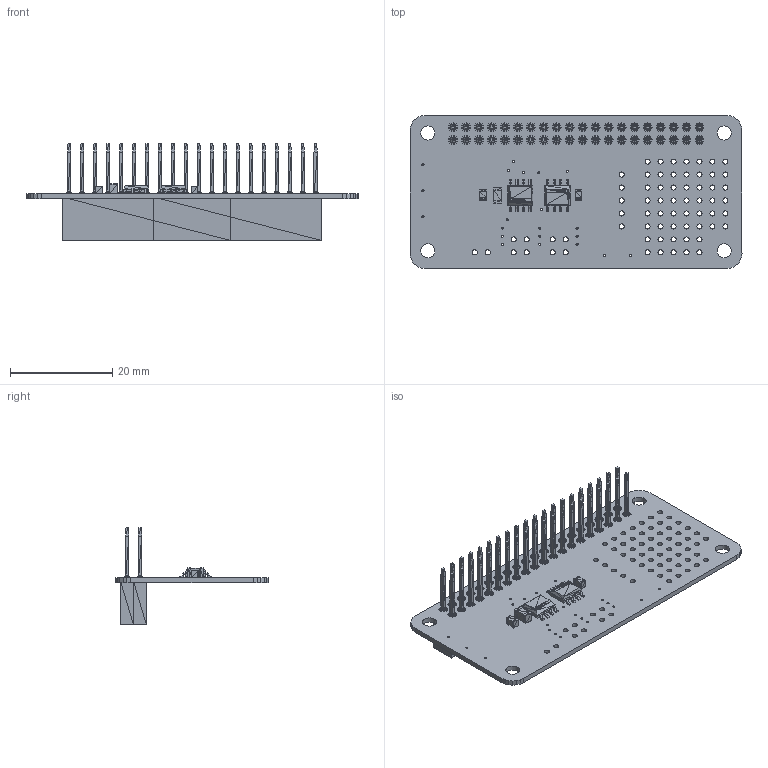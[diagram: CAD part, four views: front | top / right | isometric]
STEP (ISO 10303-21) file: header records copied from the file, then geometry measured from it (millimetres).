
FILE_DESCRIPTION(/* description */ (''),/* implementation_level */ '2;1');
FILE_NAME(/* name */ 'C:/Users/andrew/Desktop/3D Models/adc-dac-pi-zero-1.0.step',/* time_stamp */ '2018-02-10T15:25:00+00:00',/* author */ ('and101'),/* organization */ (''),/* preprocessor_version */ 'ST-DEVELOPER v16.13',/* originating_system */ 'Autodesk Translation Framework v6.5.0.72',/* authorisation */ '');
FILE_SCHEMA (('AUTOMOTIVE_DESIGN { 1 0 10303 214 3 1 1 }'));
Products named in the file (6): adc-dac-pi-zero-1.0; Board_adc-dac-pi-zero; cap_0805; cap_1206; 40_way_header; soic-8_150mil
Assembly tree (7 placements, depth 2):
  adc-dac-pi-zero-1.0
    Board_adc-dac-pi-zero
    cap_0805  x2
    cap_1206
    40_way_header
    soic-8_150mil  x2
Bounding box: 65 x 30 x 18.97 mm (x, y, z)
Volume: 4797.2 mm3; surface area: 9149.3 mm2
Topology: 109 solids, 109 shells, 24728 faces, 37598 edges, 13088 vertices
Faces by surface type: plane 24595, cylinder 133
Full cylindrical faces by diameter (mm): 0.406 x22, 1 x107, 2.75 x4
Entity records: 476459 total; most frequent: DIRECTION 85358, CARTESIAN_POINT 73475, ORIENTED_EDGE 73264, EDGE_CURVE 36632, LINE 36100, VECTOR 36100, AXIS2_PLACEMENT_3D 24629, EDGE_LOOP 24350
